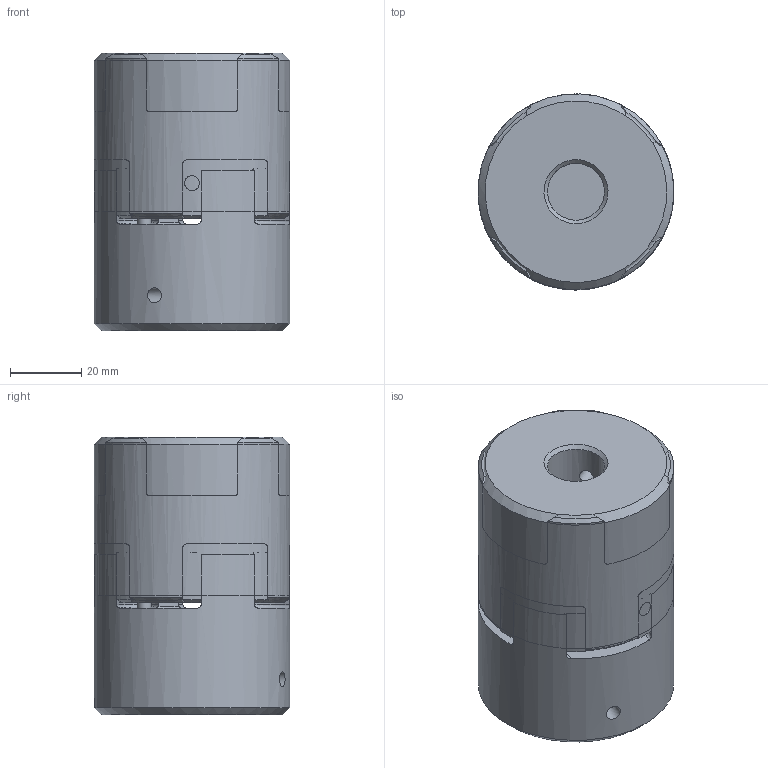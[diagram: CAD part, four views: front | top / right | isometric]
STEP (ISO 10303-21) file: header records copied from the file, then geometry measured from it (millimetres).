
FILE_DESCRIPTION( ( 'Unknown' ), '1' );
FILE_NAME( 'C:/Dokumente und Einstellungen/Sven/Desktop/homepage/cad - homepage/KBE1/KBE 1 - 24.stp', 'Unknown', ( 'Unknown' ), ( 'Unknown' ), 'XStep 1.0', 'Unknown', ' ' );
FILE_SCHEMA( ( 'automotive_design' ) );
Length unit declared in the file: millimetre
Products named in the file (3): Assem1; Zahnkranz_24_Standard_0; KBE 1 - 24_Nabe_0
Bounding box: 55 x 55 x 78 mm (x, y, z)
Surface area: 56386.9 mm2
Topology: 5 solids, 5 shells, 413 faces, 988 edges, 603 vertices
Faces by surface type: cone 189, cylinder 129, plane 68, torus 27
Full cylindrical faces by diameter (mm): 4 x16, 4.2 x3, 16 x3, 27 x4, 55 x3
Entity records: 5804 total; most frequent: CARTESIAN_POINT 1400, DIRECTION 864, ORIENTED_EDGE 788, AXIS2_PLACEMENT_3D 408, EDGE_CURVE 394, VERTEX_POINT 246, CIRCLE 224, EDGE_LOOP 212
